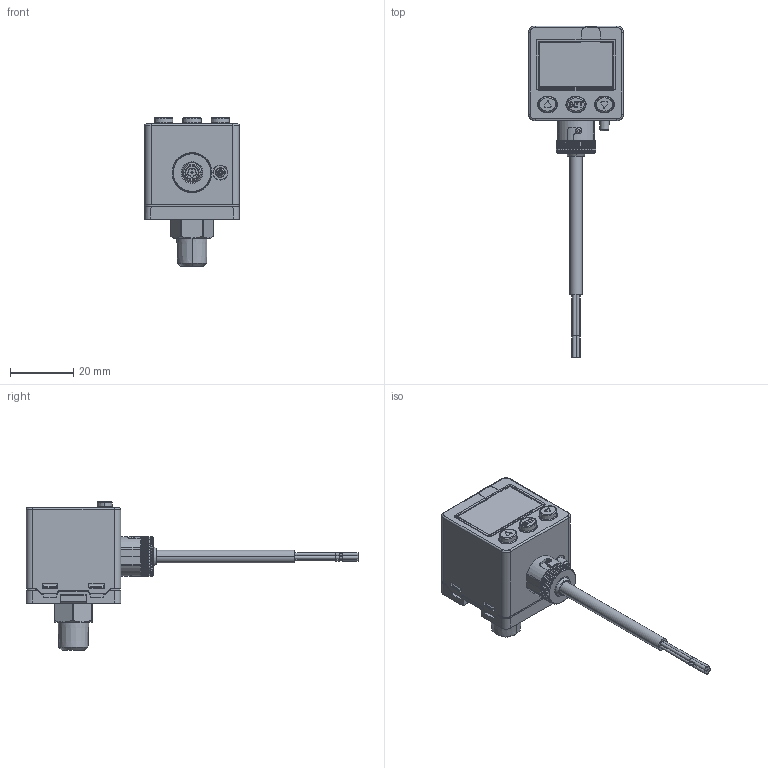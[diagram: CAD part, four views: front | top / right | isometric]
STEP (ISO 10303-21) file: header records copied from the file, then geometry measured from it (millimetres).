
FILE_DESCRIPTION((''),'2;1');
FILE_NAME('KP45X-X-F1','2019-07-05T',('Stark'),(''),'CREO PARAMETRIC BY PTC INC, 2014500','CREO PARAMETRIC BY PTC INC, 2014500','');
FILE_SCHEMA(('CONFIG_CONTROL_DESIGN'));
Products named in the file (1): KP45X-X-F1
Bounding box: 30.08 x 105.34 x 47.2 mm (x, y, z)
Volume: 29790.8 mm3; surface area: 8997.4 mm2
Topology: 1 solids, 23 shells, 1078 faces, 2784 edges, 1800 vertices
Faces by surface type: plane 427, cylinder 343, cone 142, bspline 128, torus 24, extrusion 10, sphere 4
Entity records: 50964 total; most frequent: CARTESIAN_POINT 26582, ORIENTED_EDGE 5564, DIRECTION 4217, EDGE_CURVE 2782, VERTEX_POINT 1800, AXIS2_PLACEMENT_3D 1460, VECTOR 1297, LINE 1287
